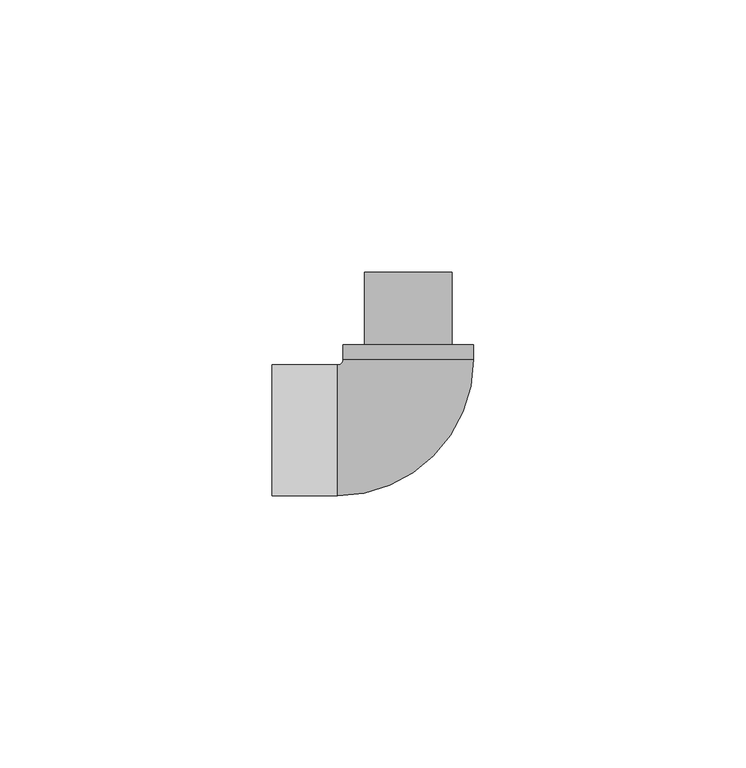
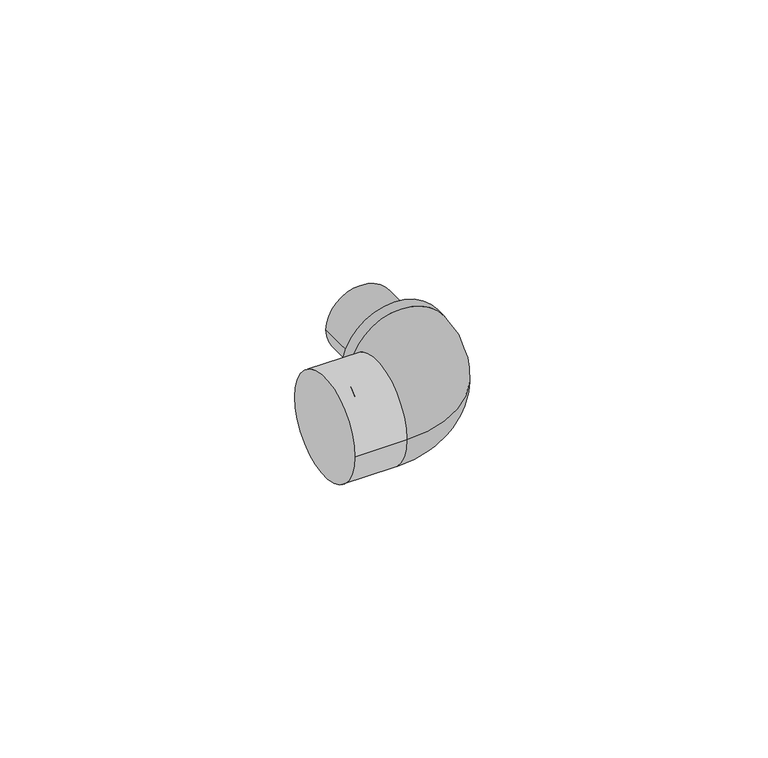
"""IFC4 building model written with IfcOpenShell, lengths in millimetres: pipe fitting geometry, KAN-therm PP kolano nyplowe 90 : KAN-therm PP kolano nyplowe 90."""

from ifc_helpers import new_model, si_unit, point, frame, frame_2d, origin, place, context, project, spatial, circle_curve, ellipse_curve, trimmed, segment, composite_curve, outline, extrude, source, transform, mapped, element, save
from ifc_brep_helpers import plane_surface, cylinder_surface, revolved_surface, advanced_brep


def pipe_fitting_9455d8f2(model_context):
    return source(origin(), model_context, "Body", "SolidModel", [
        extrude(outline(composite_curve([segment(trimmed(circle_curve(frame_2d((0.0, 7.5)), 8.0), [point((0.0, 15.5))], [point((0.0, -0.5))], False, "CARTESIAN"), True, "CONTINUOUS"), segment(trimmed(circle_curve(frame_2d((0.0, 7.5)), 8.0), [point((0.0, -0.5))], [point((0.0, 15.5))], False, "CARTESIAN"), True, "CONTINUOUS")], self_intersect=False)), frame((0.0, 15.7, 0.0), z_axis=(0.0, 1.0, 0.0), x_axis=(0.0, 0.0, 1.0)), (0.0, 0.0, 1.0), 13.3),
        advanced_brep(
        [(-4.5, 15.7, 0.0), (19.5, 15.7, 0.0), (-4.5, 13.0, 0.0), (19.5, 13.0, 0.0), (-5.5, -12.0, 0.0), (-5.5, 12.0, 0.0), (-17.5, 12.0, 0.0), (-17.5, -12.0, 0.0)],
        [
            (0, 1, circle_curve(frame((7.5, 15.7, 0.0), z_axis=(0.0, 1.0, 0.0), x_axis=(1.0, 0.0, 0.0)), 12.0)),
            (1, 0, circle_curve(frame((7.5, 15.7, 0.0), z_axis=(0.0, 1.0, 0.0), x_axis=(1.0, 0.0, 0.0)), 12.0)),
            (0, 2),
            (2, 3, circle_curve(frame((7.5, 13.0, 0.0), z_axis=(0.0, 1.0, 0.0), x_axis=(1.0, 0.0, 0.0)), 12.0)),
            (3, 1),
            (3, 2, circle_curve(frame((7.5, 13.0, 0.0), z_axis=(0.0, 1.0, 0.0), x_axis=(1.0, 0.0, 0.0)), 12.0)),
            (4, 3, circle_curve(frame((-5.5, 13.0, 0.0), z_axis=(0.0, 0.0, 1.0), x_axis=(1.0, 0.0, 0.0)), 25.0)),
            (2, 5, circle_curve(frame((-5.5, 13.0, 0.0), z_axis=(0.0, 0.0, -1.0), x_axis=(1.0, 0.0, 0.0)), 1.0)),
            (5, 4, circle_curve(frame((-5.5, 0.0, 0.0), z_axis=(1.0, 0.0, 0.0), x_axis=(0.0, -1.0, 0.0)), 12.0)),
            (4, 5, circle_curve(frame((-5.5, 0.0, 0.0), z_axis=(1.0, 0.0, 0.0), x_axis=(0.0, -1.0, 0.0)), 12.0)),
            (6, 7, circle_curve(frame((-17.5, 0.0, 0.0), z_axis=(-1.0, 0.0, 0.0), x_axis=(0.0, -1.0, 0.0)), 12.0)),
            (7, 6, circle_curve(frame((-17.5, 0.0, 0.0), z_axis=(-1.0, 0.0, 0.0), x_axis=(0.0, -1.0, 0.0)), 12.0)),
            (5, 6),
            (7, 4),
        ],
        [
            plane_surface(frame((7.5, 15.7, 0.0), z_axis=(0.0, 1.0, 0.0), x_axis=(0.0, 0.0, 1.0))),
            cylinder_surface(frame((7.5, 15.7, 0.0), z_axis=(0.0, 1.0, 0.0), x_axis=(1.0, 0.0, 0.0)), 12.0),
            revolved_surface(trimmed(ellipse_curve(frame((7.5, 13.0, 0.0), z_axis=(0.0, 1.0, 0.0), x_axis=(1.0, 0.0, 0.0)), 12.0, 12.0), [point((-4.5, 13.0, 0.0))], [point((19.5, 13.0, 0.0))], True, "CARTESIAN"), (-5.5, 13.0, 0.0), (0.0, 0.0, -1.0)),
            revolved_surface(trimmed(ellipse_curve(frame((7.5, 13.0, 0.0), z_axis=(0.0, 1.0, 0.0), x_axis=(1.0, 0.0, 0.0)), 12.0, 12.0), [point((19.5, 13.0, 0.0))], [point((-4.5, 13.0, 0.0))], True, "CARTESIAN"), (-5.5, 13.0, 0.0), (0.0, 0.0, -1.0)),
            plane_surface(frame((-17.5, 0.0, 0.0), z_axis=(-1.0, 0.0, 0.0), x_axis=(0.0, 0.0, 1.0))),
            cylinder_surface(frame((-5.5, 0.0, 0.0), z_axis=(1.0, 0.0, 0.0), x_axis=(0.0, -1.0, 0.0)), 12.0),
        ],
        [
            (0, [[1, 2]]),
            (1, [[-1, 3, 4, 5]]),
            (1, [[-2, -5, 6, -3]]),
            (2, [[7, -4, 8, 9]]),
            (3, [[-8, -6, -7, 10]]),
            (4, [[11, 12]]),
            (5, [[-9, 13, -12, 14]]),
            (5, [[-10, -14, -11, -13]]),
        ],
    ),
    ])


if __name__ == "__main__":
    model = new_model("IFC4")
    model_context = context("Model", 3, world=origin())
    ifc_project = project(units=[si_unit("LENGTHUNIT", "METRE", prefix="MILLI")], contexts=[model_context])
    site = spatial("IfcSite", under=ifc_project)
    building = spatial("IfcBuilding", under=site)
    placement = place(None, origin())
    pipe_fitting_shape = pipe_fitting_9455d8f2(model_context)
    element("IfcPipeFitting", 1, ObjectType="KAN-therm PP kolano nyplowe 90 : KAN-therm PP kolano nyplowe 90", at=placement, inside=building, context=model_context, shape_type="MappedRepresentation", body=[
        mapped(pipe_fitting_shape, transform((0.0, 0.0, 0.0), x_axis=(1.0, 0.0, 0.0), y_axis=(0.0, 1.0, 0.0), z_axis=(0.0, 0.0, 1.0))),
    ])
    save(model, "model.ifc")
